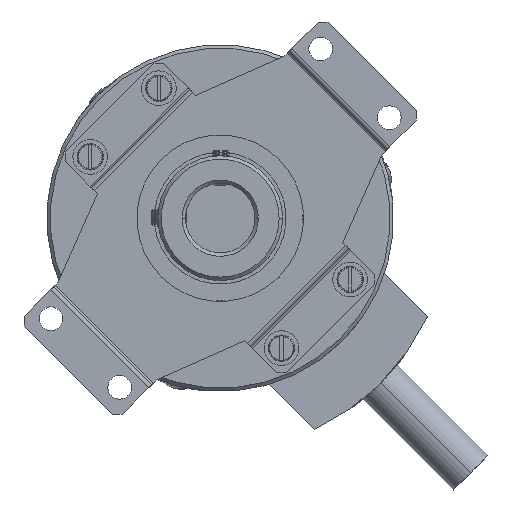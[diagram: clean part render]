
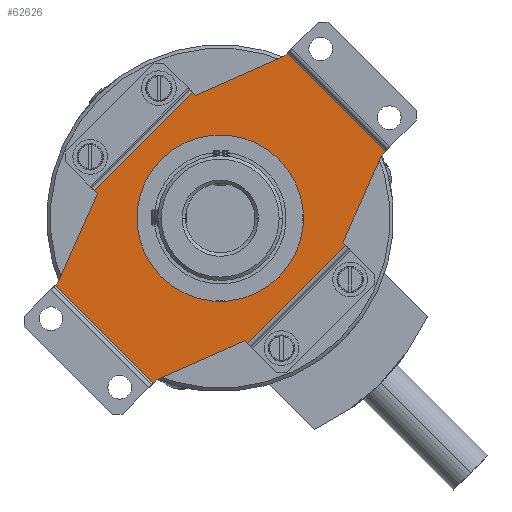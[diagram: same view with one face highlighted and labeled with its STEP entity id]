
A CAD part, left-side view. The second image highlights one B-rep face of the part: STEP entity #62626.
In plain terms, the highlighted planar face has unit normal (-1, 0, 0).
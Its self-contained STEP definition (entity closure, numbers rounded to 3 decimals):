
#303 = CARTESIAN_POINT ( 'NONE',  ( 2.1, 27.264, 43.716 ) ) ;
#645 = LINE ( 'NONE', #19898, #73625 ) ;
#3720 = VERTEX_POINT ( 'NONE', #77006 ) ;
#4962 = VERTEX_POINT ( 'NONE', #12763 ) ;
#5189 = CIRCLE ( 'NONE', #99303, 12. ) ;
#6792 = CARTESIAN_POINT ( 'NONE',  ( 2.1, 41.406, 29.574 ) ) ;
#7304 = CARTESIAN_POINT ( 'NONE',  ( 2.1, 46.606, 16.389 ) ) ;
#8259 = DIRECTION ( 'NONE',  ( 0., 0.707, 0.707 ) ) ;
#9138 = VERTEX_POINT ( 'NONE', #12739 ) ;
#10104 = VECTOR ( 'NONE', #39730, 1000. ) ;
#10383 = LINE ( 'NONE', #102713, #108648 ) ;
#10607 = EDGE_CURVE ( 'NONE', #70810, #9138, #645, .T. ) ;
#11268 = ORIENTED_EDGE ( 'NONE', *, *, #27641, .F. ) ;
#11712 = LINE ( 'NONE', #17906, #84691 ) ;
#11740 = ORIENTED_EDGE ( 'NONE', *, *, #113013, .T. ) ;
#12324 = VERTEX_POINT ( 'NONE', #16856 ) ;
#12739 = CARTESIAN_POINT ( 'NONE',  ( 2.1, -0.063, 34.774 ) ) ;
#12763 = CARTESIAN_POINT ( 'NONE',  ( 2.1, 40.949, 29.117 ) ) ;
#13196 = EDGE_CURVE ( 'NONE', #70931, #49580, #75157, .T. ) ;
#15463 = LINE ( 'NONE', #81757, #60169 ) ;
#15931 = LINE ( 'NONE', #23782, #114123 ) ;
#16079 = VERTEX_POINT ( 'NONE', #46682 ) ;
#16856 = CARTESIAN_POINT ( 'NONE',  ( 2.1, 13.622, 49.373 ) ) ;
#17209 = ORIENTED_EDGE ( 'NONE', *, *, #51466, .T. ) ;
#17906 = CARTESIAN_POINT ( 'NONE',  ( 2.1, 26.807, 43.259 ) ) ;
#18157 = CARTESIAN_POINT ( 'NONE',  ( 2.1, 31.757, 17.096 ) ) ;
#19289 = EDGE_CURVE ( 'NONE', #16079, #84492, #67731, .T. ) ;
#19734 = ORIENTED_EDGE ( 'NONE', *, *, #59682, .T. ) ;
#19898 = CARTESIAN_POINT ( 'NONE',  ( 2.1, -0.063, 34.774 ) ) ;
#21300 = EDGE_CURVE ( 'NONE', #21606, #42621, #35981, .T. ) ;
#21606 = VERTEX_POINT ( 'NONE', #303 ) ;
#23293 = CARTESIAN_POINT ( 'NONE',  ( 2.1, 1.994, -9.838 ) ) ;
#23782 = CARTESIAN_POINT ( 'NONE',  ( 2.1, 39.992, 8.861 ) ) ;
#24681 = DIRECTION ( 'NONE',  ( 0., 0.406, -0.914 ) ) ;
#25723 = LINE ( 'NONE', #37439, #73421 ) ;
#26104 = CARTESIAN_POINT ( 'NONE',  ( 2.1, 46.606, 16.389 ) ) ;
#26115 = VECTOR ( 'NONE', #73373, 1000. ) ;
#27375 = ORIENTED_EDGE ( 'NONE', *, *, #72818, .T. ) ;
#27587 = AXIS2_PLACEMENT_3D ( 'NONE', #29074, #95624, #38680 ) ;
#27641 = EDGE_CURVE ( 'NONE', #108084, #57763, #5189, .T. ) ;
#28238 = DIRECTION ( 'NONE',  ( 0., 0.707, 0.707 ) ) ;
#28660 = DIRECTION ( 'NONE',  ( 1., 0., 0. ) ) ;
#29074 = CARTESIAN_POINT ( 'NONE',  ( 2.1, 23.271, 25.582 ) ) ;
#30886 = ORIENTED_EDGE ( 'NONE', *, *, #10607, .T. ) ;
#32990 = VECTOR ( 'NONE', #43284, 1000. ) ;
#33116 = FACE_BOUND ( 'NONE', #66923, .T. ) ;
#33369 = DIRECTION ( 'NONE',  ( 0., -0.707, -0.707 ) ) ;
#33805 = ORIENTED_EDGE ( 'NONE', *, *, #80803, .T. ) ;
#34229 = CARTESIAN_POINT ( 'NONE',  ( 2.1, 32.464, 2.247 ) ) ;
#35288 = DIRECTION ( 'NONE',  ( 0., 0.707, -0.707 ) ) ;
#35449 = LINE ( 'NONE', #77653, #10104 ) ;
#35754 = DIRECTION ( 'NONE',  ( -1., 0., 0. ) ) ;
#35981 = LINE ( 'NONE', #118914, #32990 ) ;
#36160 = EDGE_CURVE ( 'NONE', #91944, #12324, #25723, .T. ) ;
#36242 = EDGE_CURVE ( 'NONE', #57763, #108084, #64468, .T. ) ;
#36457 = ORIENTED_EDGE ( 'NONE', *, *, #66372, .T. ) ;
#37361 = ORIENTED_EDGE ( 'NONE', *, *, #102522, .T. ) ;
#37439 = CARTESIAN_POINT ( 'NONE',  ( 2.1, 6.551, 42.302 ) ) ;
#38680 = DIRECTION ( 'NONE',  ( 0., 0.707, -0.707 ) ) ;
#39258 = ORIENTED_EDGE ( 'NONE', *, *, #36160, .T. ) ;
#39730 = DIRECTION ( 'NONE',  ( 0., -0.707, 0.707 ) ) ;
#42621 = VERTEX_POINT ( 'NONE', #6792 ) ;
#43136 = CARTESIAN_POINT ( 'NONE',  ( 2.1, 19.736, 7.904 ) ) ;
#43284 = DIRECTION ( 'NONE',  ( 0., 0.707, -0.707 ) ) ;
#43752 = ORIENTED_EDGE ( 'NONE', *, *, #19289, .T. ) ;
#44276 = ORIENTED_EDGE ( 'NONE', *, *, #119272, .T. ) ;
#45028 = AXIS2_PLACEMENT_3D ( 'NONE', #85685, #28660, #95220 ) ;
#46682 = CARTESIAN_POINT ( 'NONE',  ( 2.1, 32.921, 1.79 ) ) ;
#49580 = VERTEX_POINT ( 'NONE', #53026 ) ;
#49780 = VECTOR ( 'NONE', #89902, 1000. ) ;
#51466 = EDGE_CURVE ( 'NONE', #117217, #70810, #71457, .T. ) ;
#52969 = DIRECTION ( 'NONE',  ( 0., -0.707, 0.707 ) ) ;
#53026 = CARTESIAN_POINT ( 'NONE',  ( 2.1, 19.279, 7.447 ) ) ;
#53358 = EDGE_LOOP ( 'NONE', ( #33805, #77220, #36457, #44276, #58915, #19734, #43752, #37361, #92976, #55906, #17209, #30886, #106604, #39258, #11740, #27375 ) ) ;
#55906 = ORIENTED_EDGE ( 'NONE', *, *, #83685, .T. ) ;
#57763 = VERTEX_POINT ( 'NONE', #76704 ) ;
#58566 = CARTESIAN_POINT ( 'NONE',  ( 2.1, 47.063, 15.932 ) ) ;
#58915 = ORIENTED_EDGE ( 'NONE', *, *, #79155, .T. ) ;
#59682 = EDGE_CURVE ( 'NONE', #76064, #16079, #15931, .T. ) ;
#60169 = VECTOR ( 'NONE', #24681, 1000. ) ;
#62415 = LINE ( 'NONE', #26104, #109910 ) ;
#62626 = ADVANCED_FACE ( 'NONE', ( #33116, #106004 ), #75784, .F. ) ;
#62709 = CARTESIAN_POINT ( 'NONE',  ( 2.1, 5.136, 21.589 ) ) ;
#63397 = LINE ( 'NONE', #104759, #66385 ) ;
#64468 = CIRCLE ( 'NONE', #27587, 12. ) ;
#66372 = EDGE_CURVE ( 'NONE', #42621, #4962, #63397, .T. ) ;
#66385 = VECTOR ( 'NONE', #95217, 1000. ) ;
#66923 = EDGE_LOOP ( 'NONE', ( #114152, #11268 ) ) ;
#67731 = LINE ( 'NONE', #34229, #118196 ) ;
#70810 = VERTEX_POINT ( 'NONE', #115456 ) ;
#70931 = VERTEX_POINT ( 'NONE', #43136 ) ;
#71457 = LINE ( 'NONE', #113192, #93707 ) ;
#72818 = EDGE_CURVE ( 'NONE', #88731, #3720, #79693, .T. ) ;
#73373 = DIRECTION ( 'NONE',  ( 0., 0.707, -0.707 ) ) ;
#73421 = VECTOR ( 'NONE', #28238, 1000. ) ;
#73625 = VECTOR ( 'NONE', #86502, 1000. ) ;
#75022 = VECTOR ( 'NONE', #94294, 1000. ) ;
#75157 = LINE ( 'NONE', #23293, #49780 ) ;
#75263 = CARTESIAN_POINT ( 'NONE',  ( 2.1, -23.079, 57.789 ) ) ;
#75784 = PLANE ( 'NONE',  #45028 ) ;
#76064 = VERTEX_POINT ( 'NONE', #58566 ) ;
#76585 = CARTESIAN_POINT ( 'NONE',  ( 2.1, -0.52, 35.231 ) ) ;
#76704 = CARTESIAN_POINT ( 'NONE',  ( 2.1, 14.786, 34.067 ) ) ;
#76828 = LINE ( 'NONE', #121031, #26115 ) ;
#77006 = CARTESIAN_POINT ( 'NONE',  ( 2.1, 26.807, 43.259 ) ) ;
#77220 = ORIENTED_EDGE ( 'NONE', *, *, #21300, .T. ) ;
#77653 = CARTESIAN_POINT ( 'NONE',  ( 2.1, 12.208, 14.518 ) ) ;
#79155 = EDGE_CURVE ( 'NONE', #107931, #76064, #62415, .T. ) ;
#79693 = LINE ( 'NONE', #83269, #101873 ) ;
#80803 = EDGE_CURVE ( 'NONE', #3720, #21606, #11712, .T. ) ;
#81757 = CARTESIAN_POINT ( 'NONE',  ( 2.1, 40.949, 29.117 ) ) ;
#83269 = CARTESIAN_POINT ( 'NONE',  ( 2.1, 14.079, 48.916 ) ) ;
#83685 = EDGE_CURVE ( 'NONE', #49580, #117217, #35449, .T. ) ;
#84492 = VERTEX_POINT ( 'NONE', #91561 ) ;
#84524 = CARTESIAN_POINT ( 'NONE',  ( 2.1, 14.079, 48.916 ) ) ;
#84691 = VECTOR ( 'NONE', #8259, 1000. ) ;
#85685 = CARTESIAN_POINT ( 'NONE',  ( 2.1, 23.271, 25.582 ) ) ;
#86502 = DIRECTION ( 'NONE',  ( 0., -0.406, 0.914 ) ) ;
#87573 = EDGE_CURVE ( 'NONE', #9138, #91944, #100253, .T. ) ;
#88731 = VERTEX_POINT ( 'NONE', #84524 ) ;
#89902 = DIRECTION ( 'NONE',  ( 0., -0.707, -0.707 ) ) ;
#91561 = CARTESIAN_POINT ( 'NONE',  ( 2.1, 32.464, 2.247 ) ) ;
#91944 = VERTEX_POINT ( 'NONE', #76585 ) ;
#92719 = CARTESIAN_POINT ( 'NONE',  ( 2.1, 23.271, 25.582 ) ) ;
#92976 = ORIENTED_EDGE ( 'NONE', *, *, #13196, .T. ) ;
#93707 = VECTOR ( 'NONE', #122688, 1000. ) ;
#94294 = DIRECTION ( 'NONE',  ( 0., -0.707, 0.707 ) ) ;
#95217 = DIRECTION ( 'NONE',  ( 0., -0.707, -0.707 ) ) ;
#95220 = DIRECTION ( 'NONE',  ( 0., -0.707, 0.707 ) ) ;
#95624 = DIRECTION ( 'NONE',  ( -1., 0., 0. ) ) ;
#99303 = AXIS2_PLACEMENT_3D ( 'NONE', #92719, #35754, #102280 ) ;
#100253 = LINE ( 'NONE', #75263, #75022 ) ;
#101873 = VECTOR ( 'NONE', #102344, 1000. ) ;
#102280 = DIRECTION ( 'NONE',  ( 0., 0.707, -0.707 ) ) ;
#102344 = DIRECTION ( 'NONE',  ( 0., 0.914, -0.406 ) ) ;
#102522 = EDGE_CURVE ( 'NONE', #84492, #70931, #10383, .T. ) ;
#102713 = CARTESIAN_POINT ( 'NONE',  ( 2.1, 19.736, 7.904 ) ) ;
#104759 = CARTESIAN_POINT ( 'NONE',  ( 2.1, 40.949, 29.117 ) ) ;
#106004 = FACE_OUTER_BOUND ( 'NONE', #53358, .T. ) ;
#106604 = ORIENTED_EDGE ( 'NONE', *, *, #87573, .T. ) ;
#107931 = VERTEX_POINT ( 'NONE', #7304 ) ;
#108084 = VERTEX_POINT ( 'NONE', #18157 ) ;
#108648 = VECTOR ( 'NONE', #112283, 1000. ) ;
#109910 = VECTOR ( 'NONE', #35288, 1000. ) ;
#112283 = DIRECTION ( 'NONE',  ( 0., -0.914, 0.406 ) ) ;
#113013 = EDGE_CURVE ( 'NONE', #12324, #88731, #76828, .T. ) ;
#113192 = CARTESIAN_POINT ( 'NONE',  ( 2.1, -12.148, 4.304 ) ) ;
#114123 = VECTOR ( 'NONE', #33369, 1000. ) ;
#114152 = ORIENTED_EDGE ( 'NONE', *, *, #36242, .F. ) ;
#115456 = CARTESIAN_POINT ( 'NONE',  ( 2.1, 5.594, 22.046 ) ) ;
#117217 = VERTEX_POINT ( 'NONE', #62709 ) ;
#118196 = VECTOR ( 'NONE', #52969, 1000. ) ;
#118914 = CARTESIAN_POINT ( 'NONE',  ( 2.1, 34.335, 36.645 ) ) ;
#119272 = EDGE_CURVE ( 'NONE', #4962, #107931, #15463, .T. ) ;
#121031 = CARTESIAN_POINT ( 'NONE',  ( 2.1, -8.936, 71.931 ) ) ;
#122688 = DIRECTION ( 'NONE',  ( 0., 0.707, 0.707 ) ) ;
